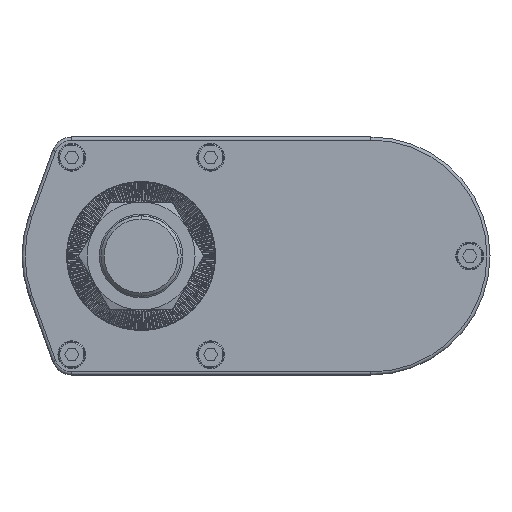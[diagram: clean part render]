
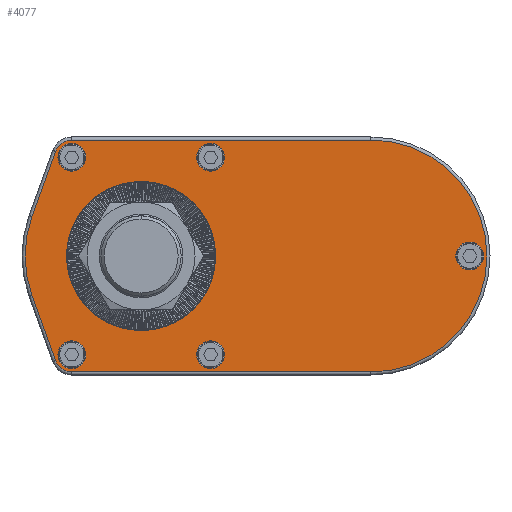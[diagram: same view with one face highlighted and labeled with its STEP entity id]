
A CAD part, left-side view. The second image highlights one B-rep face of the part: STEP entity #4077.
In plain terms, the highlighted planar face has unit normal (-1, 0, 0).
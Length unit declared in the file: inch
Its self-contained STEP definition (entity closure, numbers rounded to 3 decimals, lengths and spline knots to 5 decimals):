
#4077=ADVANCED_FACE('',(#8625,#8626,#8627,#8628,#8629,#8630,#8631),#8632,.F.);
#8625=FACE_BOUND('',#13964,.T.);
#8626=FACE_BOUND('',#13965,.T.);
#8627=FACE_BOUND('',#13966,.T.);
#8628=FACE_BOUND('',#13967,.T.);
#8629=FACE_BOUND('',#13968,.T.);
#8630=FACE_BOUND('',#13969,.T.);
#8631=FACE_OUTER_BOUND('',#13970,.T.);
#8632=PLANE('',#13971);
#13964=EDGE_LOOP('',(#26259,#26260));
#13965=EDGE_LOOP('',(#26261,#26262));
#13966=EDGE_LOOP('',(#26263,#26264));
#13967=EDGE_LOOP('',(#26265,#26266));
#13968=EDGE_LOOP('',(#26267,#26268));
#13969=EDGE_LOOP('',(#26269,#26270));
#13970=EDGE_LOOP('',(#26271,#26272,#26273,#26274,#26275,#26276,#26277,#26278));
#13971=AXIS2_PLACEMENT_3D('',#26279,#26280,#26281);
#26259=ORIENTED_EDGE('',*,*,#32741,.F.);
#26260=ORIENTED_EDGE('',*,*,#34579,.F.);
#26261=ORIENTED_EDGE('',*,*,#30763,.T.);
#26262=ORIENTED_EDGE('',*,*,#32686,.T.);
#26263=ORIENTED_EDGE('',*,*,#32918,.T.);
#26264=ORIENTED_EDGE('',*,*,#31408,.T.);
#26265=ORIENTED_EDGE('',*,*,#34766,.T.);
#26266=ORIENTED_EDGE('',*,*,#31151,.T.);
#26267=ORIENTED_EDGE('',*,*,#32954,.T.);
#26268=ORIENTED_EDGE('',*,*,#34967,.T.);
#26269=ORIENTED_EDGE('',*,*,#33905,.T.);
#26270=ORIENTED_EDGE('',*,*,#34760,.T.);
#26271=ORIENTED_EDGE('',*,*,#34968,.T.);
#26272=ORIENTED_EDGE('',*,*,#30678,.T.);
#26273=ORIENTED_EDGE('',*,*,#34707,.T.);
#26274=ORIENTED_EDGE('',*,*,#33297,.T.);
#26275=ORIENTED_EDGE('',*,*,#34969,.T.);
#26276=ORIENTED_EDGE('',*,*,#34970,.T.);
#26277=ORIENTED_EDGE('',*,*,#34971,.T.);
#26278=ORIENTED_EDGE('',*,*,#34911,.T.);
#26279=CARTESIAN_POINT('',(0.0,-2.93307,0.0));
#26280=DIRECTION('',(1.0,0.0,0.0));
#26281=DIRECTION('',(0.0,1.0,-0.0));
#30678=EDGE_CURVE('',#36846,#36844,#36847,.F.);
#30763=EDGE_CURVE('',#36985,#36989,#36991,.T.);
#31151=EDGE_CURVE('',#37648,#37646,#37649,.T.);
#31408=EDGE_CURVE('',#38056,#38054,#38057,.T.);
#32686=EDGE_CURVE('',#36989,#36985,#39999,.T.);
#32741=EDGE_CURVE('',#40076,#40078,#40079,.F.);
#32918=EDGE_CURVE('',#38054,#38056,#40357,.T.);
#32954=EDGE_CURVE('',#40406,#40410,#40412,.T.);
#33297=EDGE_CURVE('',#40879,#40877,#40880,.F.);
#33905=EDGE_CURVE('',#41683,#41685,#41687,.T.);
#34579=EDGE_CURVE('',#40078,#40076,#42518,.F.);
#34707=EDGE_CURVE('',#36844,#40879,#42664,.F.);
#34760=EDGE_CURVE('',#41685,#41683,#42725,.T.);
#34766=EDGE_CURVE('',#37646,#37648,#42731,.T.);
#34911=EDGE_CURVE('',#42894,#42898,#42900,.F.);
#34967=EDGE_CURVE('',#40410,#40406,#42963,.T.);
#34968=EDGE_CURVE('',#42898,#36846,#42964,.F.);
#34969=EDGE_CURVE('',#40877,#42965,#42966,.F.);
#34970=EDGE_CURVE('',#42965,#42967,#42968,.F.);
#34971=EDGE_CURVE('',#42967,#42894,#42969,.F.);
#36844=VERTEX_POINT('',#45305);
#36846=VERTEX_POINT('',#45307);
#36847=LINE('',#45308,#45309);
#36985=VERTEX_POINT('',#45491);
#36989=VERTEX_POINT('',#45496);
#36991=CIRCLE('',#45499,0.17717);
#37646=VERTEX_POINT('',#46377);
#37648=VERTEX_POINT('',#46380);
#37649=CIRCLE('',#46381,0.17717);
#38054=VERTEX_POINT('',#46929);
#38056=VERTEX_POINT('',#46932);
#38057=CIRCLE('',#46933,0.17717);
#39999=CIRCLE('',#49581,0.17717);
#40076=VERTEX_POINT('',#49684);
#40078=VERTEX_POINT('',#49687);
#40079=CIRCLE('',#49688,0.94882);
#40357=CIRCLE('',#49984,0.17717);
#40406=VERTEX_POINT('',#50051);
#40410=VERTEX_POINT('',#50056);
#40412=CIRCLE('',#50059,0.17717);
#40877=VERTEX_POINT('',#50706);
#40879=VERTEX_POINT('',#50708);
#40880=LINE('',#50709,#50710);
#41683=VERTEX_POINT('',#51845);
#41685=VERTEX_POINT('',#51848);
#41687=CIRCLE('',#51851,0.17717);
#42518=CIRCLE('',#52967,0.94882);
#42664=CIRCLE('',#53170,0.22047);
#42725=CIRCLE('',#53258,0.17717);
#42731=CIRCLE('',#53265,0.17717);
#42894=VERTEX_POINT('',#53496);
#42898=VERTEX_POINT('',#53501);
#42900=LINE('',#53503,#53504);
#42963=CIRCLE('',#53592,0.17717);
#42964=CIRCLE('',#53593,1.48031);
#42965=VERTEX_POINT('',#53594);
#42966=CIRCLE('',#53595,1.48031);
#42967=VERTEX_POINT('',#53596);
#42968=LINE('',#53597,#53598);
#42969=CIRCLE('',#53599,0.22047);
#45305=CARTESIAN_POINT('',(0.0,1.0916,-1.33479));
#45307=CARTESIAN_POINT('',(0.0,1.39217,-0.50319));
#45308=CARTESIAN_POINT('',(0.0,1.0916,-1.33479));
#45309=VECTOR('',#55376,39.37008);
#45491=CARTESIAN_POINT('',(0.0,-4.19449,-0.17717));
#45496=CARTESIAN_POINT('',(0.0,-4.19449,0.17717));
#45499=AXIS2_PLACEMENT_3D('',#55489,#55490,#55491);
#46377=CARTESIAN_POINT('',(0.0,-0.8874,-1.43701));
#46380=CARTESIAN_POINT('',(0.0,-0.8874,-1.08268));
#46381=AXIS2_PLACEMENT_3D('',#55983,#55984,#55985);
#46929=CARTESIAN_POINT('',(0.0,0.88425,1.08268));
#46932=CARTESIAN_POINT('',(0.0,0.88425,1.43701));
#46933=AXIS2_PLACEMENT_3D('',#56326,#56327,#56328);
#49581=AXIS2_PLACEMENT_3D('',#57888,#57889,#57890);
#49684=CARTESIAN_POINT('',(0.0,0.0,-0.94882));
#49687=CARTESIAN_POINT('',(0.0,0.,0.94882));
#49688=AXIS2_PLACEMENT_3D('',#57954,#57955,#57956);
#49984=AXIS2_PLACEMENT_3D('',#58419,#58420,#58421);
#50051=CARTESIAN_POINT('',(0.0,-0.8874,1.08268));
#50056=CARTESIAN_POINT('',(0.0,-0.8874,1.43701));
#50059=AXIS2_PLACEMENT_3D('',#58460,#58461,#58462);
#50706=CARTESIAN_POINT('',(0.0,-2.93307,-1.48031));
#50708=CARTESIAN_POINT('',(0.0,0.88425,-1.48031));
#50709=CARTESIAN_POINT('',(0.0,-2.93307,-1.48031));
#50710=VECTOR('',#58881,39.37008);
#51845=CARTESIAN_POINT('',(0.0,0.88425,-1.43701));
#51848=CARTESIAN_POINT('',(0.0,0.88425,-1.08268));
#51851=AXIS2_PLACEMENT_3D('',#59584,#59585,#59586);
#52967=AXIS2_PLACEMENT_3D('',#60476,#60477,#60478);
#53170=AXIS2_PLACEMENT_3D('',#60609,#60610,#60611);
#53258=AXIS2_PLACEMENT_3D('',#60645,#60646,#60647);
#53265=AXIS2_PLACEMENT_3D('',#60649,#60650,#60651);
#53496=CARTESIAN_POINT('',(0.0,1.0916,1.33479));
#53501=CARTESIAN_POINT('',(0.0,1.39217,0.50319));
#53503=CARTESIAN_POINT('',(0.0,1.39217,0.50319));
#53504=VECTOR('',#60796,39.37008);
#53592=AXIS2_PLACEMENT_3D('',#60843,#60844,#60845);
#53593=AXIS2_PLACEMENT_3D('',#60846,#60847,#60848);
#53594=CARTESIAN_POINT('',(0.0,-2.93307,1.48031));
#53595=AXIS2_PLACEMENT_3D('',#60849,#60850,#60851);
#53596=CARTESIAN_POINT('',(0.0,0.88425,1.48031));
#53597=CARTESIAN_POINT('',(0.0,0.88425,1.48031));
#53598=VECTOR('',#60852,39.37008);
#53599=AXIS2_PLACEMENT_3D('',#60853,#60854,#60855);
#55376=DIRECTION('',(0.0,0.34,0.94));
#55489=CARTESIAN_POINT('',(0.0,-4.19449,0.0));
#55490=DIRECTION('',(1.0,0.0,0.0));
#55491=DIRECTION('',(0.0,0.0,-1.0));
#55983=CARTESIAN_POINT('',(0.0,-0.8874,-1.25984));
#55984=DIRECTION('',(1.0,0.0,0.0));
#55985=DIRECTION('',(0.0,0.0,-1.0));
#56326=CARTESIAN_POINT('',(0.0,0.88425,1.25984));
#56327=DIRECTION('',(1.0,0.0,0.0));
#56328=DIRECTION('',(0.0,0.0,-1.0));
#57888=CARTESIAN_POINT('',(0.0,-4.19449,0.0));
#57889=DIRECTION('',(1.0,0.0,0.0));
#57890=DIRECTION('',(0.0,0.0,-1.0));
#57954=CARTESIAN_POINT('',(0.0,0.0,0.0));
#57955=DIRECTION('',(1.0,0.0,0.0));
#57956=DIRECTION('',(0.0,0.0,-1.0));
#58419=CARTESIAN_POINT('',(0.0,0.88425,1.25984));
#58420=DIRECTION('',(1.0,0.0,0.0));
#58421=DIRECTION('',(0.0,0.0,-1.0));
#58460=CARTESIAN_POINT('',(0.0,-0.8874,1.25984));
#58461=DIRECTION('',(1.0,0.0,0.0));
#58462=DIRECTION('',(0.0,0.0,-1.0));
#58881=DIRECTION('',(0.0,1.0,0.0));
#59584=CARTESIAN_POINT('',(0.0,0.88425,-1.25984));
#59585=DIRECTION('',(1.0,0.0,0.0));
#59586=DIRECTION('',(0.0,0.0,-1.0));
#60476=CARTESIAN_POINT('',(0.0,0.0,0.0));
#60477=DIRECTION('',(1.0,0.0,0.0));
#60478=DIRECTION('',(0.0,0.0,-1.0));
#60609=CARTESIAN_POINT('',(0.0,0.88425,-1.25984));
#60610=DIRECTION('',(1.0,0.0,0.0));
#60611=DIRECTION('',(0.0,0.0,-1.0));
#60645=CARTESIAN_POINT('',(0.0,0.88425,-1.25984));
#60646=DIRECTION('',(1.0,0.0,0.0));
#60647=DIRECTION('',(0.0,0.0,-1.0));
#60649=CARTESIAN_POINT('',(0.0,-0.8874,-1.25984));
#60650=DIRECTION('',(1.0,0.0,0.0));
#60651=DIRECTION('',(0.0,0.0,-1.0));
#60796=DIRECTION('',(0.0,-0.34,0.94));
#60843=CARTESIAN_POINT('',(0.0,-0.8874,1.25984));
#60844=DIRECTION('',(1.0,0.0,0.0));
#60845=DIRECTION('',(0.0,0.0,-1.0));
#60846=CARTESIAN_POINT('',(0.0,0.,0.0));
#60847=DIRECTION('',(1.0,0.0,0.0));
#60848=DIRECTION('',(0.0,0.0,-1.0));
#60849=CARTESIAN_POINT('',(0.0,-2.93307,0.0));
#60850=DIRECTION('',(1.0,0.0,0.0));
#60851=DIRECTION('',(0.0,0.0,-1.0));
#60852=DIRECTION('',(0.0,-1.0,0.0));
#60853=CARTESIAN_POINT('',(0.0,0.88425,1.25984));
#60854=DIRECTION('',(1.0,0.0,0.0));
#60855=DIRECTION('',(0.0,0.0,-1.0));
